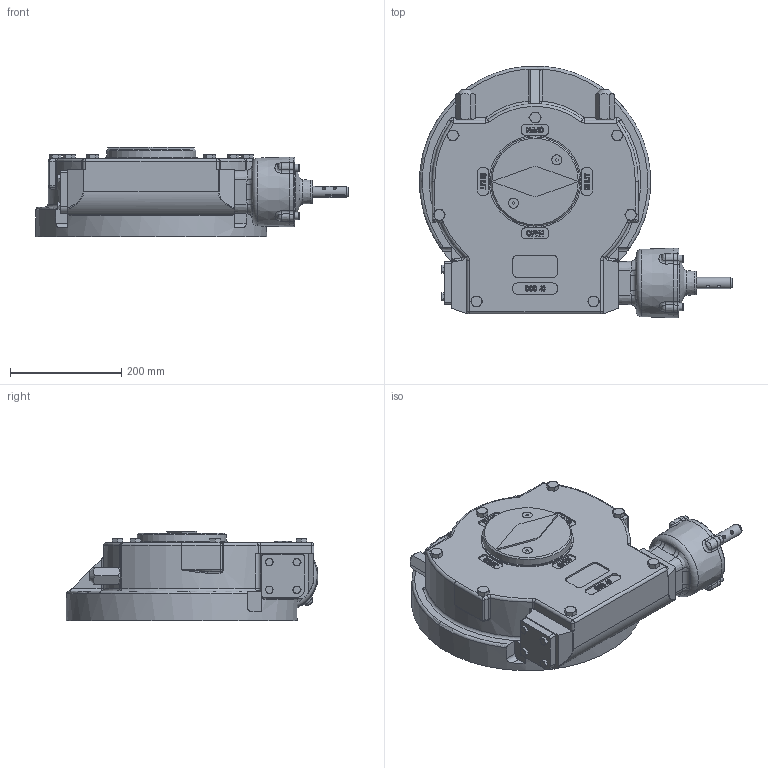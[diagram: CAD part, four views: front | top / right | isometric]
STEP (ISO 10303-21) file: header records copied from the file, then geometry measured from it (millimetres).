
FILE_DESCRIPTION( ( 'Unknown' ), '1' );
FILE_NAME( 'M:/Current Drawings/Internet datasheets/4 - STEP/AB6800G-PR4 LB LH.stp', 'Unknown', ( 'Unknown' ), ( 'Unknown' ), 'PSStep 15.0.49', 'Unknown', ' ' );
FILE_SCHEMA( ( 'AUTOMOTIVE_DESIGN { 1 0 10303 214 1 1 1 1 }' ) );
Length unit declared in the file: millimetre
Products named in the file (1): 22F0Z10000001
Bounding box: 561.07 x 452.19 x 159.9 mm (x, y, z)
Volume: 13072799.3 mm3; surface area: 1202242.9 mm2
Topology: 1 solids, 51 shells, 2406 faces, 6393 edges, 4100 vertices
Faces by surface type: plane 794, cylinder 756, cone 423, torus 283, bspline 62, sphere 50, extrusion 38
Full cylindrical faces by diameter (mm): 6 x2, 6.647 x22, 8 x13, 8.5 x4, 9 x10, 10.106 x14, 12 x7, 13.27 x4, 14 x11, 17.294 x2, 19 x1, 20 x5, 23 x1, 25 x2, 26 x3, 29 x1, 30 x1, 38 x2, 102 x1, 104.555 x1, 110 x3, 110.25 x1, 125.95 x2, 130 x6, 135 x1, 140 x1, 146 x1, 151.6 x1, 160 x1, 165 x1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
Entity records: 109772 total; most frequent: CARTESIAN_POINT 34415, ORIENTED_EDGE 11948, DIRECTION 11181, EDGE_CURVE 5974, AXIS2_PLACEMENT_3D 4602, VERTEX_POINT 3983, EDGE_LOOP 2755, FACE_OUTER_BOUND 2563
